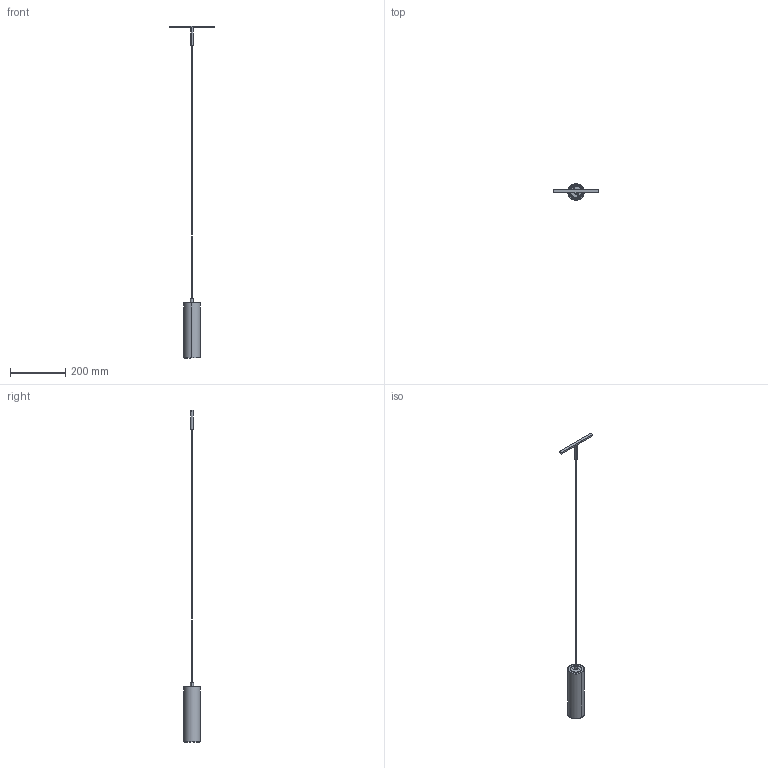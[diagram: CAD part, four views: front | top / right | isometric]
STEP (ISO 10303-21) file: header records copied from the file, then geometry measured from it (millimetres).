
FILE_DESCRIPTION(/* description */ (''),/* implementation_level */ '2;1');
FILE_NAME(/* name */ 'ICONICA SHORT - STREAM',/* time_stamp */ '2025-10-30T15:38:03+01:00',/* author */ (''),/* organization */ (''),/* preprocessor_version */ 'ST-DEVELOPER v19.2',/* originating_system */ 'Rhino 8.24',/* authorisation */ '');
FILE_SCHEMA (('CONFIG_CONTROL_DESIGN'));
Length unit declared in the file: millimetre
Products named in the file (1): Document
Bounding box: 160.11 x 60 x 1200 mm (x, y, z)
Volume: 188491.9 mm3; surface area: 125325.8 mm2
Topology: 11 solids, 12 shells, 148 faces, 437 edges, 295 vertices
Faces by surface type: cylinder 64, bspline 48, plane 36
Entity records: 8004 total; most frequent: CARTESIAN_POINT 4254, ORIENTED_EDGE 821, DIRECTION 558, EDGE_CURVE 411, AXIS2_PLACEMENT_3D 329, VERTEX_POINT 295, CIRCLE 226, TRIMMED_CURVE 225
